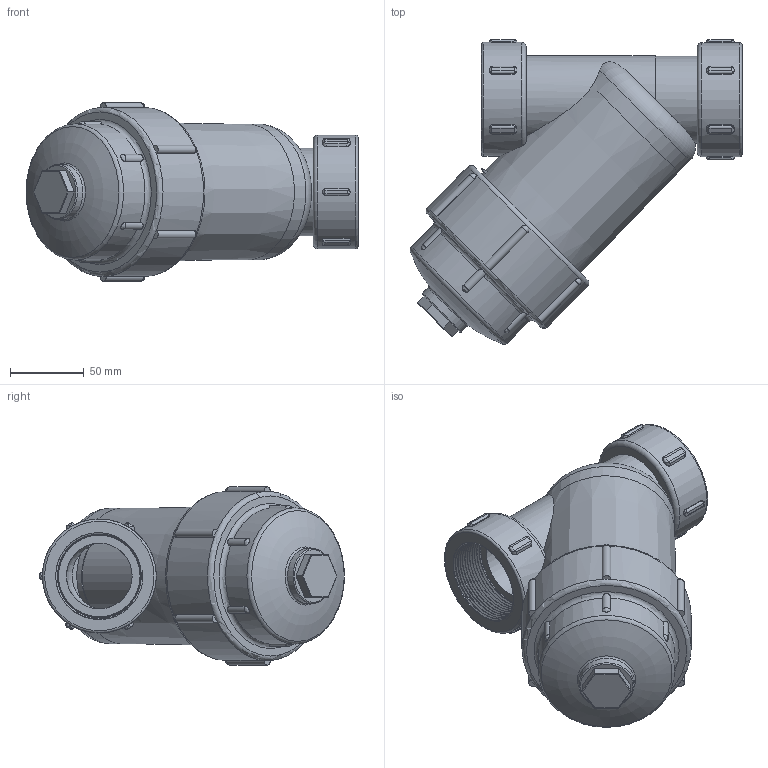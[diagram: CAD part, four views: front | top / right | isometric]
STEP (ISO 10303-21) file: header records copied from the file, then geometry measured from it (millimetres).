
FILE_DESCRIPTION(/* description */ ('Alibre Inc.'),/* implementation_level */ '2;1');
FILE_NAME(/* name */ 'export0',/* time_stamp */ '2016-10-28T12:29:54-04:00',/* author */ (''),/* organization */ (''),/* preprocessor_version */ 'ST-DEVELOPER v14',/* originating_system */ 'Alibre',/* authorisation */ '');
FILE_SCHEMA (('CONFIG_CONTROL_DESIGN'));
Length unit declared in the file: centimetre
Products named in the file (7): ID_2; ID_1; ID_3
Bounding box: 224.33 x 206.04 x 120.4 mm (x, y, z)
Volume: 748532.8 mm3; surface area: 295498.6 mm2
Topology: 6 solids, 6 shells, 334 faces, 924 edges, 619 vertices
Faces by surface type: cylinder 144, plane 119, cone 32, torus 18, bspline 15, sphere 6
Full cylindrical faces by diameter (mm): 37.084 x1, 44.45 x2, 52.932 x1, 57.404 x2, 58.928 x1, 61.214 x1, 62.23 x3, 63.5 x2, 65.024 x1, 76.2 x1, 76.962 x2, 84.074 x1, 86.36 x1, 86.868 x1, 91.948 x1, 92.964 x1, 101.6 x1, 114.3 x1
Entity records: 43582 total; most frequent: CARTESIAN_POINT 35470, ORIENTED_EDGE 1674, DIRECTION 1241, EDGE_CURVE 837, VERTEX_POINT 585, AXIS2_PLACEMENT_3D 527, EDGE_LOOP 392, FACE_BOUND 392
